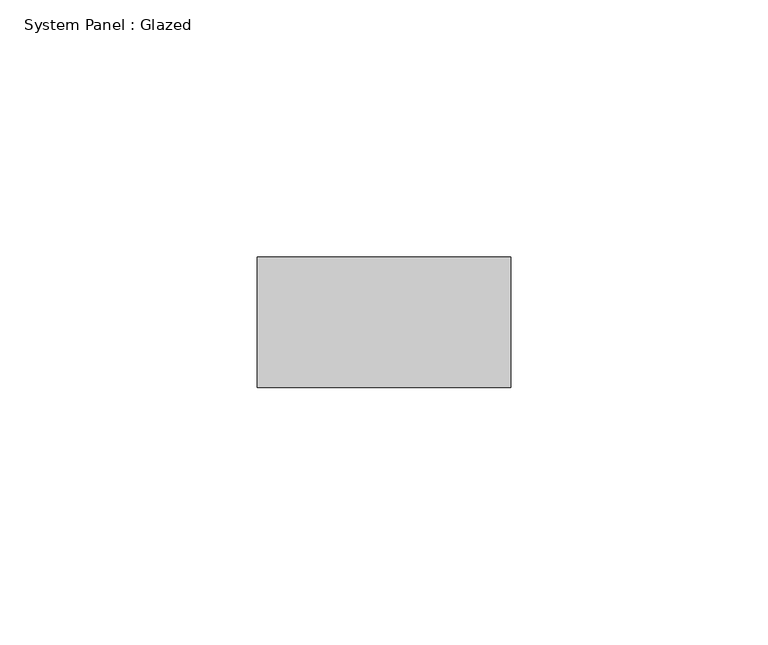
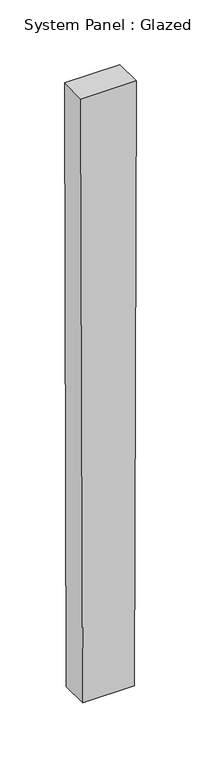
"""IFC4 building model written with IfcOpenShell, lengths in millimetres: plate geometry, System Panel : Glazed."""

from ifc_helpers import new_model, si_unit, frame, origin, place, context, project, spatial, polyline, outline, extrude, source, transform, mapped, element, save


def system_panel_glazed_7c15174c(model_context):
    return source(origin(), model_context, "Body", "SweptSolid", [
        extrude(outline(polyline([(0.0, -23.1237332), (0.0, 23.1237332), (571.4977456, 24.6779907), (571.4977456, -24.6779907), (0.0, -23.1237332)])), frame((0.0, 19.05, 0.0), z_axis=(0.0, 1.0, 0.0), x_axis=(0.0, 0.0, 1.0)), (0.0, 0.0, 1.0), 25.4),
    ])


if __name__ == "__main__":
    model = new_model("IFC4")
    model_context = context("Model", 3, world=origin())
    ifc_project = project(units=[si_unit("LENGTHUNIT", "METRE", prefix="MILLI")], contexts=[model_context])
    site = spatial("IfcSite", under=ifc_project)
    building = spatial("IfcBuilding", under=site)
    placement = place(None, origin())
    system_panel_glazed_shape = system_panel_glazed_7c15174c(model_context)
    element("IfcPlate", 1, ObjectType="System Panel : Glazed", at=placement, inside=building, context=model_context, shape_type="MappedRepresentation", body=[
        mapped(system_panel_glazed_shape, transform((0.0, 0.0, 0.0), x_axis=(1.0, 0.0, 0.0), y_axis=(0.0, 1.0, 0.0), z_axis=(0.0, 0.0, 1.0))),
    ])
    save(model, "model.ifc")
